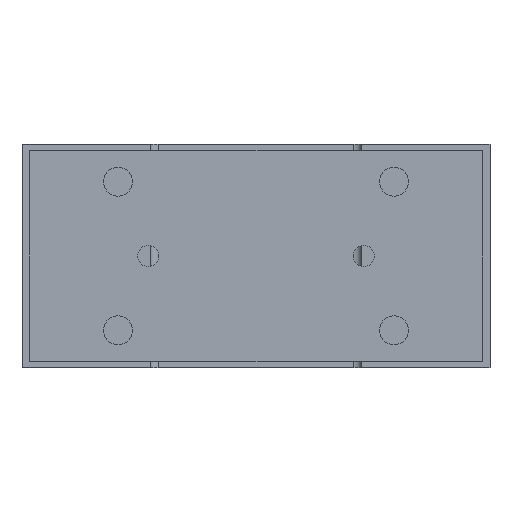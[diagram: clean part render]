
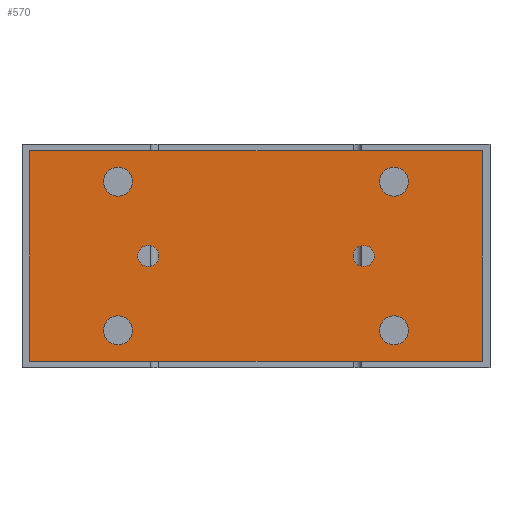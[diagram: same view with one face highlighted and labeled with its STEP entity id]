
A CAD part, left-side view. The second image highlights one B-rep face of the part: STEP entity #570.
In plain terms, the highlighted planar face has unit normal (-1, 0, 0).
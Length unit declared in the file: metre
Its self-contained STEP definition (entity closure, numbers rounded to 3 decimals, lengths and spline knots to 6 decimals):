
#570 = ADVANCED_FACE( '', ( #1295, #1296, #1297, #1298, #1299, #1300, #1301 ), #1302, .T. );
#1295 = FACE_BOUND( '', #2095, .T. );
#1296 = FACE_BOUND( '', #2096, .T. );
#1297 = FACE_BOUND( '', #2097, .T. );
#1298 = FACE_BOUND( '', #2098, .T. );
#1299 = FACE_BOUND( '', #2099, .T. );
#1300 = FACE_BOUND( '', #2100, .T. );
#1301 = FACE_OUTER_BOUND( '', #2101, .T. );
#1302 = PLANE( '', #2102 );
#2095 = EDGE_LOOP( '', ( #3481 ) );
#2096 = EDGE_LOOP( '', ( #3482 ) );
#2097 = EDGE_LOOP( '', ( #3483 ) );
#2098 = EDGE_LOOP( '', ( #3484 ) );
#2099 = EDGE_LOOP( '', ( #3485 ) );
#2100 = EDGE_LOOP( '', ( #3486 ) );
#2101 = EDGE_LOOP( '', ( #3487, #3488, #3489, #3490 ) );
#2102 = AXIS2_PLACEMENT_3D( '', #3491, #3492, #3493 );
#3481 = ORIENTED_EDGE( '', *, *, #4284, .F. );
#3482 = ORIENTED_EDGE( '', *, *, #4199, .F. );
#3483 = ORIENTED_EDGE( '', *, *, #4310, .F. );
#3484 = ORIENTED_EDGE( '', *, *, #4311, .F. );
#3485 = ORIENTED_EDGE( '', *, *, #4120, .F. );
#3486 = ORIENTED_EDGE( '', *, *, #4178, .T. );
#3487 = ORIENTED_EDGE( '', *, *, #4250, .T. );
#3488 = ORIENTED_EDGE( '', *, *, #4168, .T. );
#3489 = ORIENTED_EDGE( '', *, *, #4193, .T. );
#3490 = ORIENTED_EDGE( '', *, *, #4267, .T. );
#3491 = CARTESIAN_POINT( '', ( -0.118, -0.086, -0.0025 ) );
#3492 = DIRECTION( '', ( -1., 0., 0. ) );
#3493 = DIRECTION( '', ( 0., 0., 1. ) );
#4120 = EDGE_CURVE( '', #4875, #4875, #4876, .T. );
#4168 = EDGE_CURVE( '', #4947, #4945, #4948, .T. );
#4178 = EDGE_CURVE( '', #4959, #4959, #4960, .T. );
#4193 = EDGE_CURVE( '', #4945, #4980, #4982, .T. );
#4199 = EDGE_CURVE( '', #4990, #4990, #4991, .T. );
#4250 = EDGE_CURVE( '', #5061, #4947, #5062, .T. );
#4267 = EDGE_CURVE( '', #4980, #5061, #5084, .T. );
#4284 = EDGE_CURVE( '', #5104, #5104, #5105, .T. );
#4310 = EDGE_CURVE( '', #5136, #5136, #5137, .T. );
#4311 = EDGE_CURVE( '', #5138, #5138, #5139, .T. );
#4875 = VERTEX_POINT( '', #5934 );
#4876 = CIRCLE( '', #5935, 0.004 );
#4945 = VERTEX_POINT( '', #6055 );
#4947 = VERTEX_POINT( '', #6058 );
#4948 = LINE( '', #6059, #6060 );
#4959 = VERTEX_POINT( '', #6077 );
#4960 = CIRCLE( '', #6078, 0.004 );
#4980 = VERTEX_POINT( '', #6133 );
#4982 = LINE( '', #6136, #6137 );
#4990 = VERTEX_POINT( '', #6148 );
#4991 = CIRCLE( '', #6149, 0.0055 );
#5061 = VERTEX_POINT( '', #6233 );
#5062 = LINE( '', #6234, #6235 );
#5084 = LINE( '', #6297, #6298 );
#5104 = VERTEX_POINT( '', #6321 );
#5105 = CIRCLE( '', #6322, 0.0055 );
#5136 = VERTEX_POINT( '', #6361 );
#5137 = CIRCLE( '', #6362, 0.0055 );
#5138 = VERTEX_POINT( '', #6363 );
#5139 = CIRCLE( '', #6364, 0.0055 );
#5934 = CARTESIAN_POINT( '', ( -0.118, -0.037, -0.0425 ) );
#5935 = AXIS2_PLACEMENT_3D( '', #6902, #6903, #6904 );
#6055 = CARTESIAN_POINT( '', ( -0.118, 0.086, -0.0025 ) );
#6058 = CARTESIAN_POINT( '', ( -0.118, -0.086, -0.0025 ) );
#6059 = CARTESIAN_POINT( '', ( -0.118, -0.086, -0.0025 ) );
#6060 = VECTOR( '', #6951, 1. );
#6077 = CARTESIAN_POINT( '', ( -0.118, 0.037, -0.0425 ) );
#6078 = AXIS2_PLACEMENT_3D( '', #6958, #6959, #6960 );
#6133 = CARTESIAN_POINT( '', ( -0.118, 0.086, -0.0825 ) );
#6136 = CARTESIAN_POINT( '', ( -0.118, 0.086, -0.0025 ) );
#6137 = VECTOR( '', #6976, 1. );
#6148 = CARTESIAN_POINT( '', ( -0.118, 0.0525, -0.06525 ) );
#6149 = AXIS2_PLACEMENT_3D( '', #6980, #6981, #6982 );
#6233 = CARTESIAN_POINT( '', ( -0.118, -0.086, -0.0825 ) );
#6234 = CARTESIAN_POINT( '', ( -0.118, -0.086, -0.0825 ) );
#6235 = VECTOR( '', #7042, 1. );
#6297 = CARTESIAN_POINT( '', ( -0.118, 0.086, -0.0825 ) );
#6298 = VECTOR( '', #7056, 1. );
#6321 = CARTESIAN_POINT( '', ( -0.118, -0.0525, -0.06525 ) );
#6322 = AXIS2_PLACEMENT_3D( '', #7072, #7073, #7074 );
#6361 = CARTESIAN_POINT( '', ( -0.118, -0.0525, -0.00875 ) );
#6362 = AXIS2_PLACEMENT_3D( '', #7092, #7093, #7094 );
#6363 = CARTESIAN_POINT( '', ( -0.118, 0.0525, -0.00875 ) );
#6364 = AXIS2_PLACEMENT_3D( '', #7095, #7096, #7097 );
#6902 = CARTESIAN_POINT( '', ( -0.118, -0.041, -0.0425 ) );
#6903 = DIRECTION( '', ( -1., 0., 0. ) );
#6904 = DIRECTION( '', ( 0., 1., 0. ) );
#6951 = DIRECTION( '', ( 0., 1., 0. ) );
#6958 = CARTESIAN_POINT( '', ( -0.118, 0.041, -0.0425 ) );
#6959 = DIRECTION( '', ( 1., 0., 0. ) );
#6960 = DIRECTION( '', ( 0., -1., 0. ) );
#6976 = DIRECTION( '', ( 0., 0., -1. ) );
#6980 = CARTESIAN_POINT( '', ( -0.118, 0.0525, -0.07075 ) );
#6981 = DIRECTION( '', ( -1., 0., 0. ) );
#6982 = DIRECTION( '', ( 0., 0., 1. ) );
#7042 = DIRECTION( '', ( 0., 0., 1. ) );
#7056 = DIRECTION( '', ( 0., -1., 0. ) );
#7072 = CARTESIAN_POINT( '', ( -0.118, -0.0525, -0.07075 ) );
#7073 = DIRECTION( '', ( -1., 0., 0. ) );
#7074 = DIRECTION( '', ( 0., 0., 1. ) );
#7092 = CARTESIAN_POINT( '', ( -0.118, -0.0525, -0.01425 ) );
#7093 = DIRECTION( '', ( -1., 0., 0. ) );
#7094 = DIRECTION( '', ( 0., 0., 1. ) );
#7095 = CARTESIAN_POINT( '', ( -0.118, 0.0525, -0.01425 ) );
#7096 = DIRECTION( '', ( -1., 0., 0. ) );
#7097 = DIRECTION( '', ( 0., 0., 1. ) );
